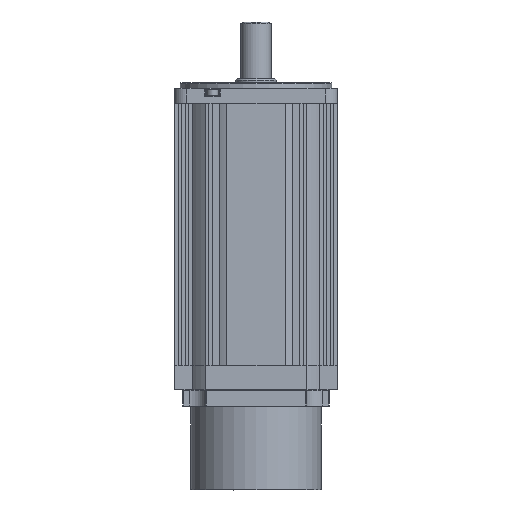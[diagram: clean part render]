
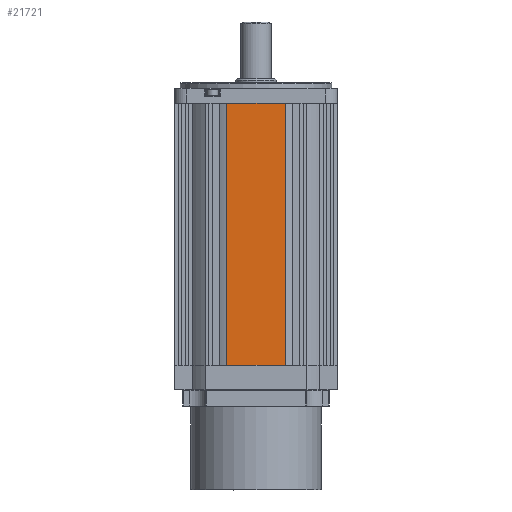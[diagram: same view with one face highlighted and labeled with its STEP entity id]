
A CAD part, front view. The second image highlights one B-rep face of the part: STEP entity #21721.
In plain terms, the highlighted planar face has unit normal (0, -1, 0).
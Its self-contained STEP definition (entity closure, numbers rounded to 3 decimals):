
#562 = DIRECTION ( 'NONE',  ( 0., -1., 0. ) ) ;
#11135 = ORIENTED_EDGE ( 'NONE', *, *, #56859, .F. ) ;
#12061 = EDGE_CURVE ( 'NONE', #43708, #29711, #31308, .T. ) ;
#12142 = VECTOR ( 'NONE', #65824, 1000. ) ;
#14601 = CARTESIAN_POINT ( 'NONE',  ( -36.5, -43., -146.28 ) ) ;
#14938 = VERTEX_POINT ( 'NONE', #41819 ) ;
#16221 = DIRECTION ( 'NONE',  ( 1., 0., 0. ) ) ;
#20486 = VECTOR ( 'NONE', #52856, 1000. ) ;
#21721 = ADVANCED_FACE ( 'NONE', ( #47027 ), #43682, .T. ) ;
#24134 = LINE ( 'NONE', #53946, #24977 ) ;
#24977 = VECTOR ( 'NONE', #16221, 1000. ) ;
#26865 = LINE ( 'NONE', #27435, #12142 ) ;
#27435 = CARTESIAN_POINT ( 'NONE',  ( -15.362, -43., -2.034 ) ) ;
#27445 = DIRECTION ( 'NONE',  ( 0., 0., -1. ) ) ;
#29393 = ORIENTED_EDGE ( 'NONE', *, *, #12061, .T. ) ;
#29711 = VERTEX_POINT ( 'NONE', #32143 ) ;
#31308 = LINE ( 'NONE', #14601, #56414 ) ;
#32143 = CARTESIAN_POINT ( 'NONE',  ( 15.362, -43., -146.28 ) ) ;
#35049 = ORIENTED_EDGE ( 'NONE', *, *, #53894, .F. ) ;
#35998 = LINE ( 'NONE', #53314, #20486 ) ;
#37684 = ORIENTED_EDGE ( 'NONE', *, *, #52956, .T. ) ;
#41819 = CARTESIAN_POINT ( 'NONE',  ( 15.362, -43., -8. ) ) ;
#43320 = CARTESIAN_POINT ( 'NONE',  ( -15.362, -43., -8. ) ) ;
#43682 = PLANE ( 'NONE',  #48120 ) ;
#43708 = VERTEX_POINT ( 'NONE', #67545 ) ;
#47027 = FACE_OUTER_BOUND ( 'NONE', #52640, .T. ) ;
#47267 = DIRECTION ( 'NONE',  ( 1., 0., 0. ) ) ;
#48120 = AXIS2_PLACEMENT_3D ( 'NONE', #60534, #562, #27445 ) ;
#50204 = VERTEX_POINT ( 'NONE', #43320 ) ;
#52640 = EDGE_LOOP ( 'NONE', ( #37684, #29393, #11135, #35049 ) ) ;
#52856 = DIRECTION ( 'NONE',  ( 0., 0., -1. ) ) ;
#52956 = EDGE_CURVE ( 'NONE', #50204, #43708, #26865, .T. ) ;
#53314 = CARTESIAN_POINT ( 'NONE',  ( 15.362, -43., -2.034 ) ) ;
#53894 = EDGE_CURVE ( 'NONE', #50204, #14938, #24134, .T. ) ;
#53946 = CARTESIAN_POINT ( 'NONE',  ( -36.5, -43., -8. ) ) ;
#56414 = VECTOR ( 'NONE', #47267, 1000. ) ;
#56859 = EDGE_CURVE ( 'NONE', #14938, #29711, #35998, .T. ) ;
#60534 = CARTESIAN_POINT ( 'NONE',  ( -36.5, -43., -8. ) ) ;
#65824 = DIRECTION ( 'NONE',  ( 0., 0., -1. ) ) ;
#67545 = CARTESIAN_POINT ( 'NONE',  ( -15.362, -43., -146.28 ) ) ;
